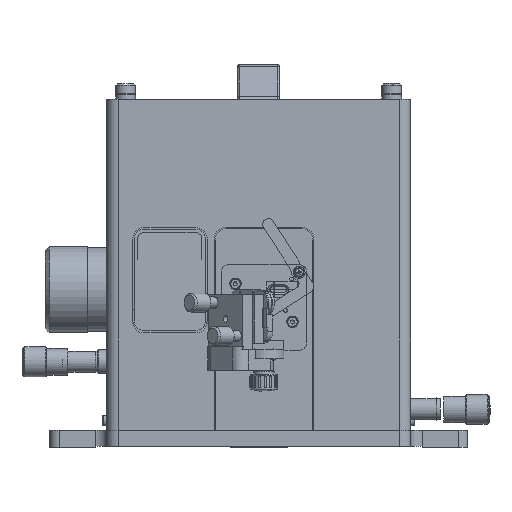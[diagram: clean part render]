
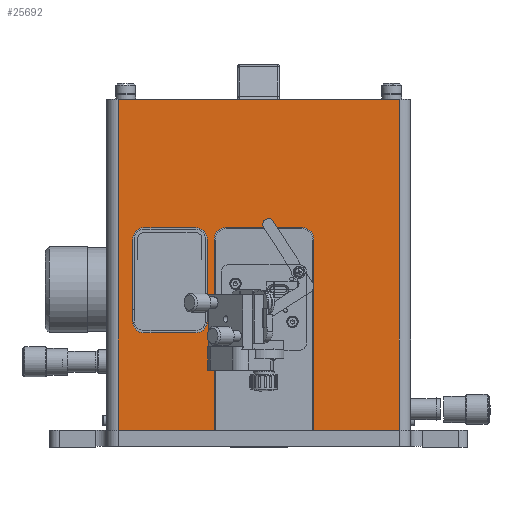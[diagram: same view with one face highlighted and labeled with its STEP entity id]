
A CAD part, left-side view. The second image highlights one B-rep face of the part: STEP entity #25692.
In plain terms, the highlighted planar face has unit normal (-1, 0, 0).
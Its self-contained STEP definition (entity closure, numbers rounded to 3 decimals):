
#703=FACE_BOUND('',#3381,.T.);
#1230=PLANE('',#27720);
#2066=FACE_OUTER_BOUND('',#3380,.T.);
#3380=EDGE_LOOP('',(#20555,#20556,#20557,#20558,#20559,#20560,#20561,#20562,
#20563,#20564));
#3381=EDGE_LOOP('',(#20565,#20566,#20567,#20568,#20569,#20570,#20571,#20572));
#5060=LINE('',#40408,#7621);
#5069=LINE('',#40438,#7630);
#5070=LINE('',#40442,#7631);
#5071=LINE('',#40446,#7632);
#5072=LINE('',#40447,#7633);
#5073=LINE('',#40449,#7634);
#5074=LINE('',#40451,#7635);
#5075=LINE('',#40452,#7636);
#5076=LINE('',#40455,#7637);
#5077=LINE('',#40459,#7638);
#5078=LINE('',#40463,#7639);
#5079=LINE('',#40467,#7640);
#7621=VECTOR('',#31860,10.);
#7630=VECTOR('',#31883,10.);
#7631=VECTOR('',#31886,10.);
#7632=VECTOR('',#31889,10.);
#7633=VECTOR('',#31890,10.);
#7634=VECTOR('',#31891,10.);
#7635=VECTOR('',#31892,10.);
#7636=VECTOR('',#31893,10.);
#7637=VECTOR('',#31894,10.);
#7638=VECTOR('',#31897,10.);
#7639=VECTOR('',#31900,10.);
#7640=VECTOR('',#31903,10.);
#9988=CIRCLE('',#27721,6.);
#9989=CIRCLE('',#27722,6.);
#9990=CIRCLE('',#27723,6.);
#9991=CIRCLE('',#27724,6.);
#9992=CIRCLE('',#27725,6.);
#9993=CIRCLE('',#27726,6.);
#11747=VERTEX_POINT('',#40401);
#11750=VERTEX_POINT('',#40406);
#11763=VERTEX_POINT('',#40436);
#11764=VERTEX_POINT('',#40437);
#11765=VERTEX_POINT('',#40439);
#11766=VERTEX_POINT('',#40441);
#11767=VERTEX_POINT('',#40443);
#11768=VERTEX_POINT('',#40445);
#11769=VERTEX_POINT('',#40448);
#11770=VERTEX_POINT('',#40450);
#11771=VERTEX_POINT('',#40453);
#11772=VERTEX_POINT('',#40454);
#11773=VERTEX_POINT('',#40456);
#11774=VERTEX_POINT('',#40458);
#11775=VERTEX_POINT('',#40460);
#11776=VERTEX_POINT('',#40462);
#11777=VERTEX_POINT('',#40464);
#11778=VERTEX_POINT('',#40466);
#15371=EDGE_CURVE('',#11747,#11750,#5060,.T.);
#15385=EDGE_CURVE('',#11763,#11764,#5069,.T.);
#15386=EDGE_CURVE('',#11765,#11764,#9988,.T.);
#15387=EDGE_CURVE('',#11765,#11766,#5070,.T.);
#15388=EDGE_CURVE('',#11767,#11766,#9989,.T.);
#15389=EDGE_CURVE('',#11767,#11768,#5071,.T.);
#15390=EDGE_CURVE('',#11768,#11747,#5072,.T.);
#15391=EDGE_CURVE('',#11769,#11750,#5073,.T.);
#15392=EDGE_CURVE('',#11770,#11769,#5074,.T.);
#15393=EDGE_CURVE('',#11770,#11763,#5075,.T.);
#15394=EDGE_CURVE('',#11771,#11772,#5076,.T.);
#15395=EDGE_CURVE('',#11772,#11773,#9990,.T.);
#15396=EDGE_CURVE('',#11773,#11774,#5077,.T.);
#15397=EDGE_CURVE('',#11774,#11775,#9991,.T.);
#15398=EDGE_CURVE('',#11775,#11776,#5078,.T.);
#15399=EDGE_CURVE('',#11776,#11777,#9992,.T.);
#15400=EDGE_CURVE('',#11777,#11778,#5079,.T.);
#15401=EDGE_CURVE('',#11778,#11771,#9993,.T.);
#20555=ORIENTED_EDGE('',*,*,#15385,.T.);
#20556=ORIENTED_EDGE('',*,*,#15386,.F.);
#20557=ORIENTED_EDGE('',*,*,#15387,.T.);
#20558=ORIENTED_EDGE('',*,*,#15388,.F.);
#20559=ORIENTED_EDGE('',*,*,#15389,.T.);
#20560=ORIENTED_EDGE('',*,*,#15390,.T.);
#20561=ORIENTED_EDGE('',*,*,#15371,.T.);
#20562=ORIENTED_EDGE('',*,*,#15391,.F.);
#20563=ORIENTED_EDGE('',*,*,#15392,.F.);
#20564=ORIENTED_EDGE('',*,*,#15393,.T.);
#20565=ORIENTED_EDGE('',*,*,#15394,.T.);
#20566=ORIENTED_EDGE('',*,*,#15395,.T.);
#20567=ORIENTED_EDGE('',*,*,#15396,.T.);
#20568=ORIENTED_EDGE('',*,*,#15397,.T.);
#20569=ORIENTED_EDGE('',*,*,#15398,.T.);
#20570=ORIENTED_EDGE('',*,*,#15399,.T.);
#20571=ORIENTED_EDGE('',*,*,#15400,.T.);
#20572=ORIENTED_EDGE('',*,*,#15401,.T.);
#25692=ADVANCED_FACE('',(#2066,#703),#1230,.T.);
#27720=AXIS2_PLACEMENT_3D('',#40435,#31881,#31882);
#27721=AXIS2_PLACEMENT_3D('',#40440,#31884,#31885);
#27722=AXIS2_PLACEMENT_3D('',#40444,#31887,#31888);
#27723=AXIS2_PLACEMENT_3D('',#40457,#31895,#31896);
#27724=AXIS2_PLACEMENT_3D('',#40461,#31898,#31899);
#27725=AXIS2_PLACEMENT_3D('',#40465,#31901,#31902);
#27726=AXIS2_PLACEMENT_3D('',#40468,#31904,#31905);
#31860=DIRECTION('',(0.,0.,1.));
#31881=DIRECTION('center_axis',(-1.,0.,0.));
#31882=DIRECTION('ref_axis',(0.,-1.,0.));
#31883=DIRECTION('',(0.,0.,1.));
#31884=DIRECTION('center_axis',(-1.,0.,0.));
#31885=DIRECTION('ref_axis',(0.,0.707,0.707));
#31886=DIRECTION('',(0.,-1.,0.));
#31887=DIRECTION('center_axis',(-1.,0.,0.));
#31888=DIRECTION('ref_axis',(0.,-0.707,0.707));
#31889=DIRECTION('',(0.,0.,-1.));
#31890=DIRECTION('',(0.,-1.,0.));
#31891=DIRECTION('',(0.,-1.,0.));
#31892=DIRECTION('',(0.,0.,1.));
#31893=DIRECTION('',(0.,-1.,0.));
#31894=DIRECTION('',(0.,-1.,0.));
#31895=DIRECTION('center_axis',(1.,0.,0.));
#31896=DIRECTION('ref_axis',(0.,-1.,0.));
#31897=DIRECTION('',(0.,0.,-1.));
#31898=DIRECTION('center_axis',(1.,0.,0.));
#31899=DIRECTION('ref_axis',(0.,0.,
-1.));
#31900=DIRECTION('',(0.,1.,0.));
#31901=DIRECTION('center_axis',(1.,0.,0.));
#31902=DIRECTION('ref_axis',(0.,1.,0.));
#31903=DIRECTION('',(0.,0.,1.));
#31904=DIRECTION('center_axis',(1.,0.,0.));
#31905=DIRECTION('ref_axis',(0.,0.,
1.));
#40401=CARTESIAN_POINT('',(-302.,-74.,9.));
#40406=CARTESIAN_POINT('',(-302.,-74.,183.));
#40408=CARTESIAN_POINT('',(-302.,-74.,9.));
#40435=CARTESIAN_POINT('Origin',(-302.,74.,9.));
#40436=CARTESIAN_POINT('',(-302.,23.4,9.));
#40437=CARTESIAN_POINT('',(-302.,23.4,109.5));
#40438=CARTESIAN_POINT('',(-302.,23.4,9.));
#40439=CARTESIAN_POINT('',(-302.,17.4,115.5));
#40440=CARTESIAN_POINT('Origin',(-302.,17.4,109.5));
#40441=CARTESIAN_POINT('',(-302.,-22.9,115.5));
#40442=CARTESIAN_POINT('',(-302.,48.7,115.5));
#40443=CARTESIAN_POINT('',(-302.,-28.9,109.5));
#40444=CARTESIAN_POINT('Origin',(-302.,-22.9,109.5));
#40445=CARTESIAN_POINT('',(-302.,-28.9,9.));
#40446=CARTESIAN_POINT('',(-302.,-28.9,62.25));
#40447=CARTESIAN_POINT('',(-302.,74.,9.));
#40448=CARTESIAN_POINT('',(-302.,74.,183.));
#40449=CARTESIAN_POINT('',(-302.,74.,183.));
#40450=CARTESIAN_POINT('',(-302.,74.,9.));
#40451=CARTESIAN_POINT('',(-302.,74.,9.));
#40452=CARTESIAN_POINT('',(-302.,74.,9.));
#40453=CARTESIAN_POINT('',(-302.,60.4,115.5));
#40454=CARTESIAN_POINT('',(-302.,33.1,115.5));
#40455=CARTESIAN_POINT('',(-302.,67.2,115.5));
#40456=CARTESIAN_POINT('',(-302.,27.1,109.5));
#40457=CARTESIAN_POINT('Origin',(-302.,33.1,109.5));
#40458=CARTESIAN_POINT('',(-302.,27.1,66.3));
#40459=CARTESIAN_POINT('',(-302.,27.1,59.25));
#40460=CARTESIAN_POINT('',(-302.,33.1,60.3));
#40461=CARTESIAN_POINT('Origin',(-302.,33.1,66.3));
#40462=CARTESIAN_POINT('',(-302.,60.4,60.3));
#40463=CARTESIAN_POINT('',(-302.,53.55,60.3));
#40464=CARTESIAN_POINT('',(-302.,66.4,66.3));
#40465=CARTESIAN_POINT('Origin',(-302.,60.4,66.3));
#40466=CARTESIAN_POINT('',(-302.,66.4,109.5));
#40467=CARTESIAN_POINT('',(-302.,66.4,37.65));
#40468=CARTESIAN_POINT('Origin',(-302.,60.4,109.5));
